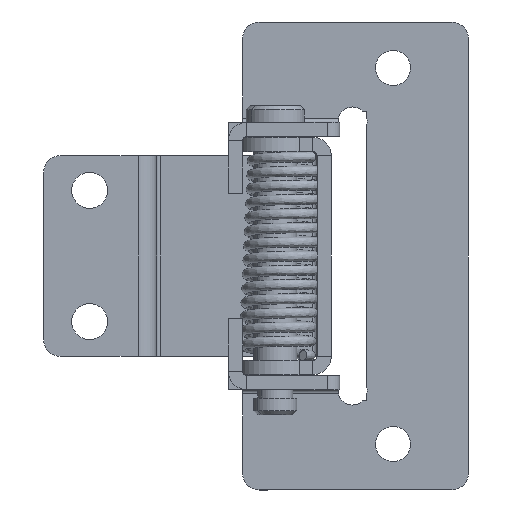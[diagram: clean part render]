
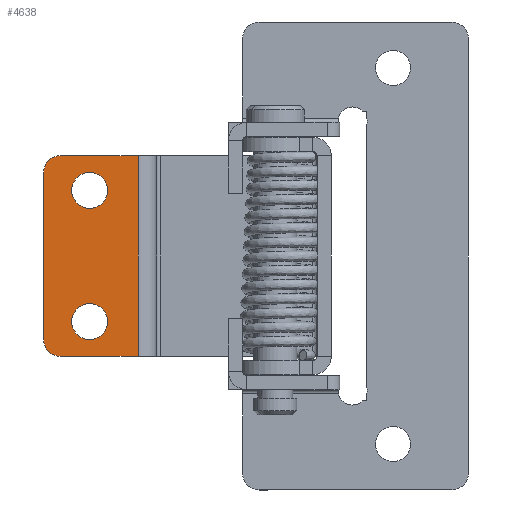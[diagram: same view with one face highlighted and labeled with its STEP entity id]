
A CAD part, front view. The second image highlights one B-rep face of the part: STEP entity #4638.
In plain terms, the highlighted planar face has unit normal (0, -1, 0).
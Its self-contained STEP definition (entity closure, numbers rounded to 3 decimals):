
#104 = CARTESIAN_POINT ( 'NONE',  ( -13.5, 0., 24. ) ) ;
#256 = AXIS2_PLACEMENT_3D ( 'NONE', #8569, #1963, #3956 ) ;
#287 = ORIENTED_EDGE ( 'NONE', *, *, #1908, .F. ) ;
#292 = CARTESIAN_POINT ( 'NONE',  ( -13.5, 0., 22. ) ) ;
#394 = CARTESIAN_POINT ( 'NONE',  ( -13.5, 0., 2. ) ) ;
#398 = EDGE_CURVE ( 'NONE', #5511, #4090, #9483, .T. ) ;
#451 = DIRECTION ( 'NONE',  ( 0., 0., 1. ) ) ;
#531 = VECTOR ( 'NONE', #8990, 1000. ) ;
#731 = VERTEX_POINT ( 'NONE', #4734 ) ;
#785 = EDGE_LOOP ( 'NONE', ( #7242, #7851 ) ) ;
#800 = CARTESIAN_POINT ( 'NONE',  ( -11.5, 0., 24. ) ) ;
#856 = AXIS2_PLACEMENT_3D ( 'NONE', #3525, #8527, #451 ) ;
#1182 = LINE ( 'NONE', #4134, #9151 ) ;
#1190 = DIRECTION ( 'NONE',  ( 1., 0., 0. ) ) ;
#1610 = DIRECTION ( 'NONE',  ( 0., 0., 1. ) ) ;
#1745 = AXIS2_PLACEMENT_3D ( 'NONE', #3701, #2983, #5917 ) ;
#1764 = VERTEX_POINT ( 'NONE', #5794 ) ;
#1784 = CARTESIAN_POINT ( 'NONE',  ( -2.2, 0., 24. ) ) ;
#1908 = EDGE_CURVE ( 'NONE', #9317, #8004, #8515, .T. ) ;
#1963 = DIRECTION ( 'NONE',  ( 0., 1., 0. ) ) ;
#1974 = ORIENTED_EDGE ( 'NONE', *, *, #9266, .T. ) ;
#2019 = EDGE_LOOP ( 'NONE', ( #3286, #4604, #6434, #7447, #287, #1974 ) ) ;
#2067 = VERTEX_POINT ( 'NONE', #394 ) ;
#2091 = CARTESIAN_POINT ( 'NONE',  ( -8., 0., 22. ) ) ;
#2134 = CARTESIAN_POINT ( 'NONE',  ( -8., 0., 2. ) ) ;
#2236 = CIRCLE ( 'NONE', #7787, 2.15 ) ;
#2397 = EDGE_CURVE ( 'NONE', #2861, #2067, #6839, .T. ) ;
#2557 = EDGE_CURVE ( 'NONE', #2067, #1764, #8664, .T. ) ;
#2644 = DIRECTION ( 'NONE',  ( 0., 1., 0. ) ) ;
#2696 = CARTESIAN_POINT ( 'NONE',  ( -8., 0., 4.15 ) ) ;
#2751 = DIRECTION ( 'NONE',  ( 0., 0., 1. ) ) ;
#2861 = VERTEX_POINT ( 'NONE', #292 ) ;
#2963 = AXIS2_PLACEMENT_3D ( 'NONE', #8935, #5287, #1610 ) ;
#2983 = DIRECTION ( 'NONE',  ( 0., -1., 0. ) ) ;
#2993 = DIRECTION ( 'NONE',  ( 0., 0., 1. ) ) ;
#3286 = ORIENTED_EDGE ( 'NONE', *, *, #2397, .T. ) ;
#3345 = FACE_BOUND ( 'NONE', #785, .T. ) ;
#3431 = DIRECTION ( 'NONE',  ( 0., 1., 0. ) ) ;
#3525 = CARTESIAN_POINT ( 'NONE',  ( -13.5, 0., 24. ) ) ;
#3701 = CARTESIAN_POINT ( 'NONE',  ( -11.5, 0., 2. ) ) ;
#3732 = CIRCLE ( 'NONE', #2963, 2. ) ;
#3956 = DIRECTION ( 'NONE',  ( 0., 0., 1. ) ) ;
#4090 = VERTEX_POINT ( 'NONE', #6722 ) ;
#4134 = CARTESIAN_POINT ( 'NONE',  ( -2.2, 0., 24. ) ) ;
#4244 = CIRCLE ( 'NONE', #256, 2.15 ) ;
#4288 = CARTESIAN_POINT ( 'NONE',  ( -2.2, 0., 0. ) ) ;
#4604 = ORIENTED_EDGE ( 'NONE', *, *, #2557, .T. ) ;
#4638 = ADVANCED_FACE ( 'NONE', ( #9303, #3345, #6276 ), #7142, .F. ) ;
#4734 = CARTESIAN_POINT ( 'NONE',  ( -8., 0., 6.3 ) ) ;
#4821 = EDGE_CURVE ( 'NONE', #4090, #5511, #2236, .T. ) ;
#5287 = DIRECTION ( 'NONE',  ( 0., -1., 0. ) ) ;
#5293 = LINE ( 'NONE', #7516, #8047 ) ;
#5465 = VERTEX_POINT ( 'NONE', #2134 ) ;
#5511 = VERTEX_POINT ( 'NONE', #2091 ) ;
#5516 = EDGE_CURVE ( 'NONE', #731, #5465, #5949, .T. ) ;
#5794 = CARTESIAN_POINT ( 'NONE',  ( -11.5, 0., 0. ) ) ;
#5916 = DIRECTION ( 'NONE',  ( 1., 0., 0. ) ) ;
#5917 = DIRECTION ( 'NONE',  ( 0., 0., 1. ) ) ;
#5940 = AXIS2_PLACEMENT_3D ( 'NONE', #7481, #7569, #2993 ) ;
#5949 = CIRCLE ( 'NONE', #6727, 2.15 ) ;
#6216 = EDGE_CURVE ( 'NONE', #5465, #731, #4244, .T. ) ;
#6268 = DIRECTION ( 'NONE',  ( 0., 0., 1. ) ) ;
#6276 = FACE_OUTER_BOUND ( 'NONE', #2019, .T. ) ;
#6320 = VERTEX_POINT ( 'NONE', #4288 ) ;
#6434 = ORIENTED_EDGE ( 'NONE', *, *, #7277, .T. ) ;
#6722 = CARTESIAN_POINT ( 'NONE',  ( -8., 0., 17.7 ) ) ;
#6727 = AXIS2_PLACEMENT_3D ( 'NONE', #2696, #2644, #6268 ) ;
#6839 = LINE ( 'NONE', #104, #531 ) ;
#6892 = EDGE_CURVE ( 'NONE', #8004, #6320, #1182, .T. ) ;
#6898 = CARTESIAN_POINT ( 'NONE',  ( -13.5, 0., 24. ) ) ;
#7142 = PLANE ( 'NONE',  #856 ) ;
#7242 = ORIENTED_EDGE ( 'NONE', *, *, #398, .T. ) ;
#7277 = EDGE_CURVE ( 'NONE', #1764, #6320, #5293, .T. ) ;
#7447 = ORIENTED_EDGE ( 'NONE', *, *, #6892, .F. ) ;
#7481 = CARTESIAN_POINT ( 'NONE',  ( -8., 0., 19.85 ) ) ;
#7516 = CARTESIAN_POINT ( 'NONE',  ( -13.5, 0., 0. ) ) ;
#7569 = DIRECTION ( 'NONE',  ( 0., 1., 0. ) ) ;
#7703 = DIRECTION ( 'NONE',  ( 0., 0., -1. ) ) ;
#7787 = AXIS2_PLACEMENT_3D ( 'NONE', #7903, #3431, #2751 ) ;
#7851 = ORIENTED_EDGE ( 'NONE', *, *, #4821, .T. ) ;
#7903 = CARTESIAN_POINT ( 'NONE',  ( -8., 0., 19.85 ) ) ;
#8004 = VERTEX_POINT ( 'NONE', #1784 ) ;
#8047 = VECTOR ( 'NONE', #5916, 1000. ) ;
#8234 = VECTOR ( 'NONE', #1190, 1000. ) ;
#8247 = ORIENTED_EDGE ( 'NONE', *, *, #6216, .T. ) ;
#8515 = LINE ( 'NONE', #6898, #8234 ) ;
#8527 = DIRECTION ( 'NONE',  ( 0., 1., 0. ) ) ;
#8569 = CARTESIAN_POINT ( 'NONE',  ( -8., 0., 4.15 ) ) ;
#8664 = CIRCLE ( 'NONE', #1745, 2. ) ;
#8935 = CARTESIAN_POINT ( 'NONE',  ( -11.5, 0., 22. ) ) ;
#8953 = EDGE_LOOP ( 'NONE', ( #9498, #8247 ) ) ;
#8990 = DIRECTION ( 'NONE',  ( 0., 0., -1. ) ) ;
#9151 = VECTOR ( 'NONE', #7703, 1000. ) ;
#9266 = EDGE_CURVE ( 'NONE', #9317, #2861, #3732, .T. ) ;
#9303 = FACE_BOUND ( 'NONE', #8953, .T. ) ;
#9317 = VERTEX_POINT ( 'NONE', #800 ) ;
#9483 = CIRCLE ( 'NONE', #5940, 2.15 ) ;
#9498 = ORIENTED_EDGE ( 'NONE', *, *, #5516, .T. ) ;
